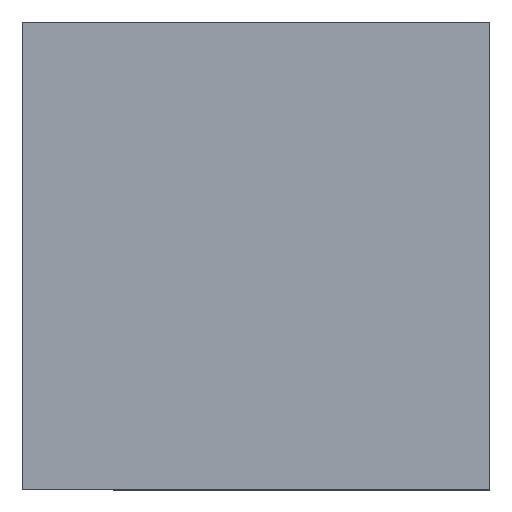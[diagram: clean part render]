
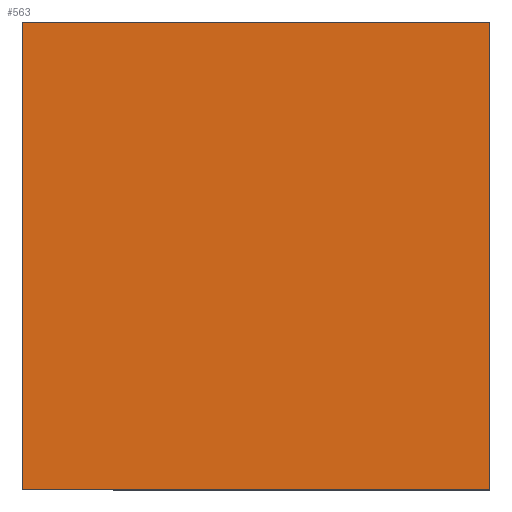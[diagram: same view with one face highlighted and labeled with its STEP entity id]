
A CAD part, top view. The second image highlights one B-rep face of the part: STEP entity #563.
In plain terms, the highlighted planar face has unit normal (0, 0, 1).
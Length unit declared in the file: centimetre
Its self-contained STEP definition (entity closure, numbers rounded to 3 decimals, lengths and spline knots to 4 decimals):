
#13 = VERTEX_POINT ( 'NONE', #48 ) ;
#30 = EDGE_CURVE ( 'NONE', #13, #121, #41, .T. ) ;
#41 = LINE ( 'NONE', #481, #1235 ) ;
#48 = CARTESIAN_POINT ( 'NONE',  ( 1000., 1000., 1000. ) ) ;
#92 = FACE_OUTER_BOUND ( 'NONE', #1268, .T. ) ;
#105 = VERTEX_POINT ( 'NONE', #1259 ) ;
#121 = VERTEX_POINT ( 'NONE', #201 ) ;
#133 = CARTESIAN_POINT ( 'NONE',  ( 0., 0., 1000. ) ) ;
#159 = VERTEX_POINT ( 'NONE', #1359 ) ;
#172 = EDGE_CURVE ( 'NONE', #105, #13, #407, .T. ) ;
#183 = CARTESIAN_POINT ( 'NONE',  ( 0., 0., 1000. ) ) ;
#201 = CARTESIAN_POINT ( 'NONE',  ( 0., 1000., 1000. ) ) ;
#296 = ORIENTED_EDGE ( 'NONE', *, *, #172, .T. ) ;
#402 = PLANE ( 'NONE',  #1151 ) ;
#407 = LINE ( 'NONE', #845, #1173 ) ;
#426 = ORIENTED_EDGE ( 'NONE', *, *, #786, .T. ) ;
#429 = DIRECTION ( 'NONE',  ( 0., 0., 1. ) ) ;
#454 = LINE ( 'NONE', #977, #893 ) ;
#463 = VECTOR ( 'NONE', #885, 100. ) ;
#481 = CARTESIAN_POINT ( 'NONE',  ( 0., 1000., 1000. ) ) ;
#490 = DIRECTION ( 'NONE',  ( -1., 0., 0. ) ) ;
#526 = DIRECTION ( 'NONE',  ( 1., 0., 0. ) ) ;
#563 = ADVANCED_FACE ( 'NONE', ( #92 ), #402, .T. ) ;
#786 = EDGE_CURVE ( 'NONE', #159, #105, #1297, .T. ) ;
#830 = ORIENTED_EDGE ( 'NONE', *, *, #30, .T. ) ;
#845 = CARTESIAN_POINT ( 'NONE',  ( 1000., 1000., 1000. ) ) ;
#885 = DIRECTION ( 'NONE',  ( 1., 0., 0. ) ) ;
#893 = VECTOR ( 'NONE', #1293, 100. ) ;
#977 = CARTESIAN_POINT ( 'NONE',  ( 0., 1000., 1000. ) ) ;
#1029 = EDGE_CURVE ( 'NONE', #121, #159, #454, .T. ) ;
#1151 = AXIS2_PLACEMENT_3D ( 'NONE', #183, #429, #526 ) ;
#1173 = VECTOR ( 'NONE', #1376, 100. ) ;
#1182 = ORIENTED_EDGE ( 'NONE', *, *, #1029, .T. ) ;
#1235 = VECTOR ( 'NONE', #490, 100. ) ;
#1259 = CARTESIAN_POINT ( 'NONE',  ( 1000., 0., 1000. ) ) ;
#1268 = EDGE_LOOP ( 'NONE', ( #1182, #426, #296, #830 ) ) ;
#1293 = DIRECTION ( 'NONE',  ( 0., -1., 0. ) ) ;
#1297 = LINE ( 'NONE', #133, #463 ) ;
#1359 = CARTESIAN_POINT ( 'NONE',  ( 0., 0., 1000. ) ) ;
#1376 = DIRECTION ( 'NONE',  ( 0., 1., 0. ) ) ;
